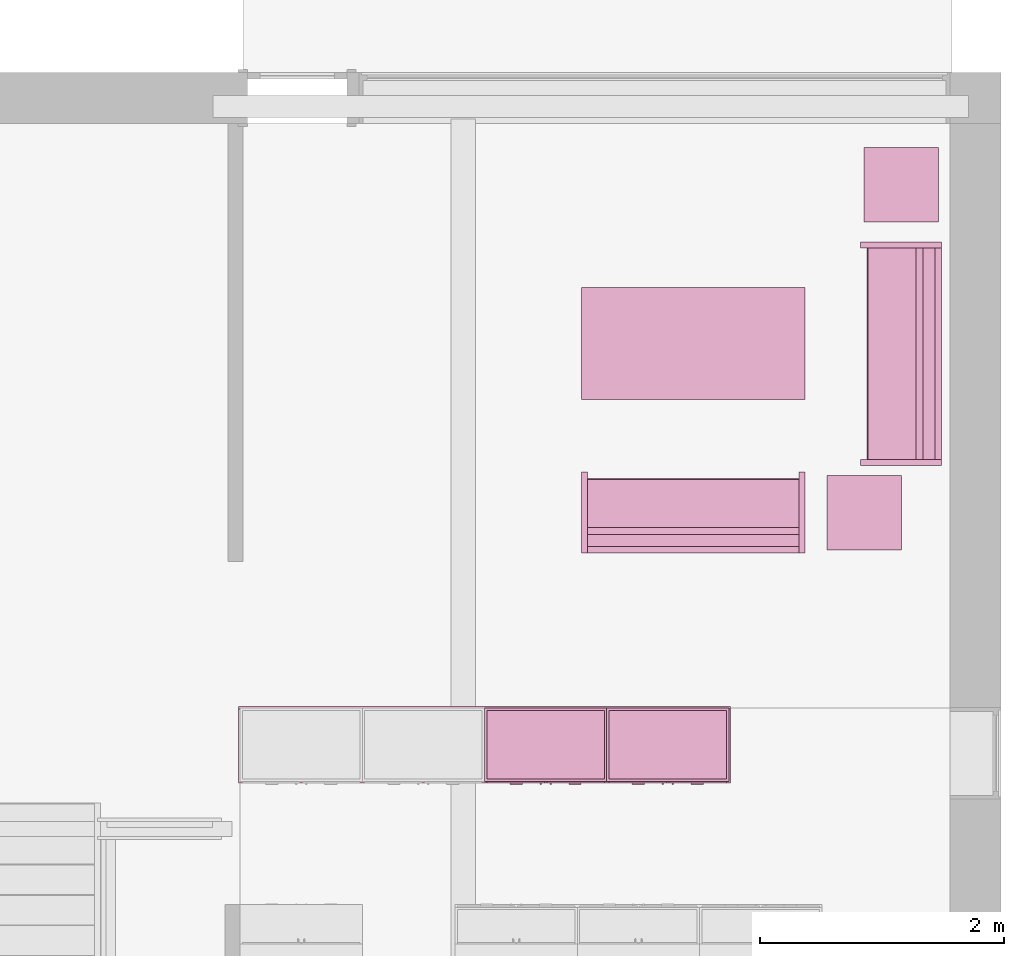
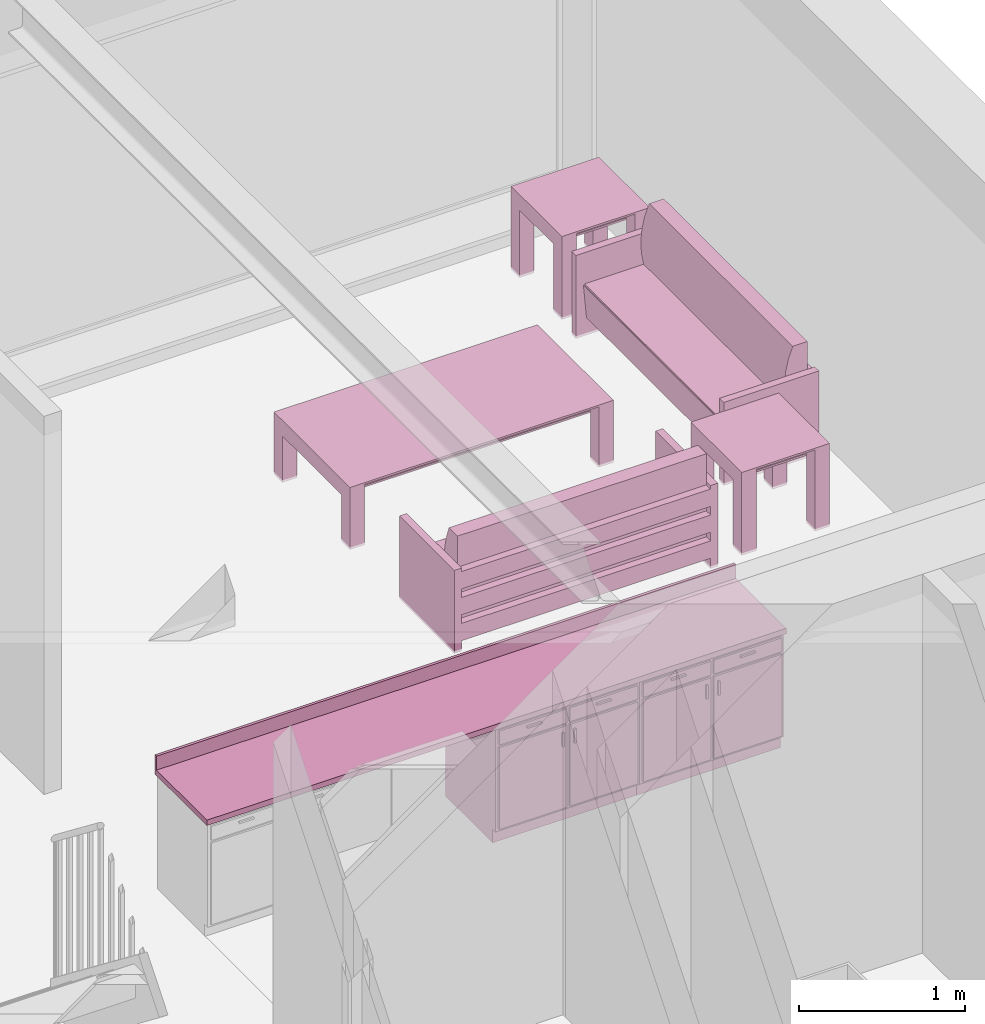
# One storey, part 13 of 14: 8 furnishings.
"""IFC4 building model written with IfcOpenShell, lengths in metres."""

from ifc_helpers import new_model, entity, si_unit, converted_unit, frame, origin, origin_2d_with_axis, place, context, project, spatial, polyline, rectangle, outline, extrude, face_set, surface_model, source, transform, mapped, element, save


model = new_model("IFC4")

# Units and contexts
model_context = context("Model", 3, precision=1e-09, world=origin())
plan_context = context("Plan", 3, precision=1e-09, world=origin())
ifc_project = project(units=[si_unit("LENGTHUNIT", "METRE"), si_unit("AREAUNIT", "SQUARE_METRE"), si_unit("VOLUMEUNIT", "CUBIC_METRE"), converted_unit("PLANEANGLEUNIT", "DEGREE", entity("IfcRatioMeasure", 0.01745329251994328), si_unit("PLANEANGLEUNIT", "RADIAN"), dimensions=[0, 0, 0, 0, 0, 0, 0]), si_unit("TIMEUNIT", "SECOND")], contexts=[model_context, plan_context])

# Site, building, storey, space
site_placement = place(None, origin())
site = spatial("IfcSite", under=ifc_project, at=site_placement, Name="Default", CompositionType="ELEMENT")
building_placement = place(site_placement, origin())
building = spatial("IfcBuilding", under=site, at=building_placement, CompositionType="ELEMENT")
storey_placement = place(building_placement, origin())
storey = spatial("IfcBuildingStorey", under=building, at=storey_placement, Name="Level 1", CompositionType="ELEMENT", Elevation=0.0)
space_1_placement = place(storey_placement, origin())
space_1 = spatial("IfcSpace", under=storey, at=space_1_placement, Name="B103", CompositionType="ELEMENT", PredefinedType="INTERNAL")

# Furnishings
shared_shape_1 = source(origin(), model_context, "Body", "SurfaceModel", [
    surface_model("IfcFaceBasedSurfaceModel", [(0.9809499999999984, 0.04445000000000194, 0.8600000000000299), (0.9809499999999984, 0.04445000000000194, 0.0999999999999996), (0.01905000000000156, 0.04445000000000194, 0.0999999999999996), (0.01905000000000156, 0.04445000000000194, 0.8600000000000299), (1.0, 0.02540000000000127, 0.8600000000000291), (0.0, 0.02540000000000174, 0.8600000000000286), (1.0, 0.02540000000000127, 0.0999999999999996), (0.0, 0.02540000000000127, 0.09999999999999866), (0.01905000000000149, 0.606349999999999, 0.8600000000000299), (0.01905000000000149, 0.606349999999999, 0.09999999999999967), (0.01905000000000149, 0.06040000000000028, 0.0999999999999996), (0.0, 0.6253999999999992, 0.8600000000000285), (0.0, 0.6254000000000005, 0.0), (0.0, 0.06040000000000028, 0.0), (0.0, 0.06040000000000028, 0.09999999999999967), (0.9809499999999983, 0.6063499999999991, 0.8600000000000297), (0.9809499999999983, 0.6063499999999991, 0.09999999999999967), (1.0, 0.6253999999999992, 0.8600000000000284), (1.0, 0.6253999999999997, 0.0), (0.9809499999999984, 0.06040000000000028, 0.09999999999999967), (1.0, 0.06040000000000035, 0.09999999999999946), (1.0, 0.06040000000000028, 0.0), (0.3103250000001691, 0.0, 0.815550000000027), (0.3103250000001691, 0.0, 0.8028500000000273), (0.2087250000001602, 0.0, 0.8028500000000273), (0.2087250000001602, 0.0, 0.815550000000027), (0.7912750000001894, 0.0, 0.815550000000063), (0.7912750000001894, 0.0, 0.8028500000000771), (0.6896750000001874, 0.0, 0.8028500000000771), (0.6896750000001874, 0.0, 0.815550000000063), (0.4650750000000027, 0.0, 0.6822000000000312), (0.4650750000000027, 0.0, 0.5806000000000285), (0.4523750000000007, 0.0, 0.5806000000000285), (0.4523750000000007, 0.0, 0.6822000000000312), (0.5476249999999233, 0.0, 0.6822000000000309), (0.5476249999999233, 0.0, 0.5806000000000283), (0.5349249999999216, 0.0, 0.5806000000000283), (0.5349249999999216, 0.0, 0.6822000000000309), (0.3103250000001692, 0.01270000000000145, 0.815550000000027), (0.3103250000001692, 0.01270000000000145, 0.8028500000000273), (0.2087250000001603, 0.01270000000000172, 0.8028500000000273), (0.2087250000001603, 0.01270000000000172, 0.815550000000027), (0.7912750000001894, 0.01269999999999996, 0.815550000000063), (0.7912750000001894, 0.01269999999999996, 0.8028500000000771), (0.6896750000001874, 0.01270000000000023, 0.8028500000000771), (0.6896750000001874, 0.01270000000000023, 0.815550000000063), (0.4650750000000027, 0.0127000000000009, 0.6822000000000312), (0.4650750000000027, 0.0127000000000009, 0.5806000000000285), (0.4523750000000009, 0.0127000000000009, 0.5806000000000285), (0.4523750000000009, 0.0127000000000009, 0.6822000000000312), (0.5476249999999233, 0.01270000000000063, 0.6822000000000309), (0.5476249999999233, 0.01270000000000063, 0.5806000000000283), (0.5349249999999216, 0.01270000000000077, 0.5806000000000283), (0.5349249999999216, 0.01270000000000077, 0.6822000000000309), (0.4904749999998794, 0.0127000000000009, 0.840950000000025), (0.4904749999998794, 0.0127000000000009, 0.7393500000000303), (0.01905000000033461, 0.01270000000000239, 0.7393500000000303), (0.01905000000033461, 0.01270000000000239, 0.840950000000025), (0.9809500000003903, 0.01269999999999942, 0.8409500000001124), (0.9809500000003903, 0.01269999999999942, 0.7393500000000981), (0.509524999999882, 0.0127000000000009, 0.7393500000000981), (0.509524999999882, 0.0127000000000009, 0.8409500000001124), (0.4904749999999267, 0.0127000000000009, 0.7203000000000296), (0.4904749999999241, 0.0127000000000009, 0.119049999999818), (0.01905000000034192, 0.01270000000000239, 0.119049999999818), (0.01905000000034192, 0.01270000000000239, 0.7203000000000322), (0.9809500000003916, 0.01269999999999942, 0.7203000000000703), (0.9809500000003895, 0.01269999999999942, 0.1190499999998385), (0.5095249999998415, 0.0127000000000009, 0.1190499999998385), (0.5095249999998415, 0.0127000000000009, 0.7203000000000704), (0.4904749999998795, 0.02540000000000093, 0.840950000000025), (0.4904749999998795, 0.02540000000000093, 0.7393500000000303), (0.01905000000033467, 0.02540000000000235, 0.7393500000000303), (0.01905000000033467, 0.02540000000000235, 0.840950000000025), (0.9809500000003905, 0.02539999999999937, 0.8409500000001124), (0.9809500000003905, 0.02539999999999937, 0.7393500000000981), (0.5095249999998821, 0.02540000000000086, 0.7393500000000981), (0.5095249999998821, 0.02540000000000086, 0.8409500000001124), (0.4904749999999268, 0.02540000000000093, 0.7203000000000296), (0.4904749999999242, 0.02540000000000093, 0.119049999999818), (0.01905000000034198, 0.02540000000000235, 0.119049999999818), (0.01905000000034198, 0.02540000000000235, 0.7203000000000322), (0.9809500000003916, 0.02539999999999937, 0.7203000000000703), (0.9809500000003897, 0.02539999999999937, 0.1190499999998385), (0.5095249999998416, 0.02540000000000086, 0.1190499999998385), (0.5095249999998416, 0.02540000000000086, 0.7203000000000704), (0.9809499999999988, 0.6063499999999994, 0.1190499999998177), (0.9809499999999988, 0.04445000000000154, 0.1190499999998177), (0.01905000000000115, 0.04445000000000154, 0.1190499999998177), (0.01905000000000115, 0.6063499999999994, 0.1190499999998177), (0.9809499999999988, 0.6063499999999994, 0.09999999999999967), (0.9809499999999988, 0.04445000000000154, 0.09999999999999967), (0.01905000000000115, 0.04445000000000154, 0.09999999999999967), (0.01905000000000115, 0.6063499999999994, 0.09999999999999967)], [face_set([[[0, 1, 2, 3]], [[0, 4, 5, 3]], [[4, 6, 7, 5]], [[2, 1, 6, 7]], [[3, 8, 9, 10, 2]], [[5, 11, 8, 3]], [[7, 5, 11, 12, 13, 14]], [[2, 7, 14, 10]], [[8, 15, 16, 9]], [[11, 17, 15, 8]], [[12, 11, 17, 18]], [[1, 19, 16, 15, 0]], [[0, 15, 17, 4]], [[4, 6, 20, 21, 18, 17]], [[6, 1, 19, 20]], [[10, 9, 16, 19]], [[18, 21, 13, 12]], [[13, 14, 10, 19, 20, 21]]]), face_set([[[22, 23, 24, 25]], [[26, 27, 28, 29]], [[30, 31, 32, 33]], [[34, 35, 36, 37]], [[38, 39, 40, 41]], [[42, 43, 44, 45]], [[46, 47, 48, 49]], [[50, 51, 52, 53]], [[25, 41, 38, 22]], [[24, 40, 41, 25]], [[23, 24, 40, 39]], [[22, 23, 39, 38]], [[29, 45, 42, 26]], [[28, 44, 45, 29]], [[27, 28, 44, 43]], [[26, 27, 43, 42]], [[33, 49, 46, 30]], [[32, 48, 49, 33]], [[31, 32, 48, 47]], [[30, 31, 47, 46]], [[37, 53, 50, 34]], [[36, 52, 53, 37]], [[35, 36, 52, 51]], [[34, 35, 51, 50]]]), face_set([[[54, 55, 56, 57]], [[58, 59, 60, 61]], [[62, 63, 64, 65]], [[66, 67, 68, 69]], [[70, 71, 72, 73]], [[74, 75, 76, 77]], [[78, 79, 80, 81]], [[82, 83, 84, 85]], [[57, 73, 70, 54]], [[56, 57, 73, 72]], [[55, 56, 72, 71]], [[54, 55, 71, 70]], [[61, 77, 74, 58]], [[60, 76, 77, 61]], [[59, 60, 76, 75]], [[58, 59, 75, 74]], [[65, 81, 78, 62]], [[64, 65, 81, 80]], [[63, 64, 80, 79]], [[62, 63, 79, 78]], [[69, 85, 82, 66]], [[68, 84, 85, 69]], [[67, 68, 84, 83]], [[66, 67, 83, 82]]]), face_set([[[86, 87, 88, 89]], [[90, 91, 92, 93]], [[89, 86, 90, 93]], [[88, 89, 93, 92]], [[87, 91, 92, 88]], [[86, 87, 91, 90]]])]),
])
for number, where in (
    (1, (4.574000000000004, -5.82540000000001, 0.0)),
    (2, (5.574000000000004, -5.825400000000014, 0.0)),
):
    element("IfcFurnishingElement", number, at=place(space_1_placement, frame(where)), inside=space_1, Name="M_Base Cabinet-Double Door & 2 Drawer:1000mm:1000mm", ObjectType="1000mm", context=model_context, shape_type="MappedRepresentation", body=[
        mapped(shared_shape_1, transform((0.0, 0.0, 0.0), scale=1.0)),
    ])
shared_shape_2 = source(origin(), model_context, "Body", "SweptSolid", [
    extrude(rectangle(XDim=0.01905000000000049, YDim=4.023999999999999, at=origin_2d_with_axis()), frame((0.8115377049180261, -0.009525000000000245, 0.8999999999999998), z_axis=(0.0, 0.0, 1.0), x_axis=(0.0, -1.0, 0.0)), (0.0, 0.0, 1.0), 0.1016000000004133),
    extrude(rectangle(XDim=4.023999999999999, YDim=0.6249999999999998, at=origin_2d_with_axis()), frame((0.8115377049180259, -0.3124999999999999, 0.8600000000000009), z_axis=(0.0, 0.0, 1.0), x_axis=(-1.0, 0.0, 0.0)), (0.0, 0.0, 1.0), 0.03999999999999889),
])
furnishing_1_placement = place(space_1_placement, frame((3.76246229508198, -5.188000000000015, 0.0)))
element("IfcFurnishingElement", 3, at=furnishing_1_placement, inside=space_1, Name="M_Counter Top:600mm Depth:600mm Depth", ObjectType="600mm Depth", context=model_context, shape_type="MappedRepresentation", body=[
    mapped(shared_shape_2, transform((0.0, 0.0, 0.0), scale=1.0)),
])

# Space
space_2_placement = place(storey_placement, origin())
space_2 = spatial("IfcSpace", under=storey, at=space_2_placement, Name="B102", CompositionType="ELEMENT", PredefinedType="INTERNAL")

# Furnishings
shared_shape_3 = source(origin(), model_context, "Body", "SurfaceModel", [
    surface_model("IfcFaceBasedSurfaceModel", [(0.0507999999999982, 0.6095999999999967, 0.5842), (0.05079999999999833, 0.6603999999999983, 0.5842), (0.05079999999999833, 0.6603999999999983, 0.4572000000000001), (0.0507999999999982, 0.6095999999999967, 0.4572000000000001), (0.0507999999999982, 0.6095999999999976, 0.3937000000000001), (0.05079999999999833, 0.6603999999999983, 0.3937000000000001), (0.05079999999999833, 0.6603999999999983, 0.2667), (0.0507999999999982, 0.6095999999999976, 0.2667), (0.0507999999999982, 0.6096000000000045, 0.2032), (0.05079999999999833, 0.6603999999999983, 0.2032), (0.05079999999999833, 0.6603999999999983, 0.0762), (0.0507999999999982, 0.6096000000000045, 0.0762), (1.779199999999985, 0.6095999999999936, 0.5842), (1.779199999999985, 0.6095999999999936, 0.4572000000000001), (1.779199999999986, 0.6603999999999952, 0.4572000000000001), (1.779199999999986, 0.6603999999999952, 0.5842), (1.779199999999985, 0.6095999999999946, 0.3937000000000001), (1.779199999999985, 0.6095999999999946, 0.2667), (1.779199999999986, 0.6603999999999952, 0.2667), (1.779199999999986, 0.6603999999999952, 0.3937000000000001), (1.779199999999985, 0.6096000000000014, 0.2032), (1.779199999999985, 0.6096000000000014, 0.0762), (1.779199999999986, 0.6603999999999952, 0.0762), (1.779199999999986, 0.6603999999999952, 0.2032), (0.05079999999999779, 0.4702223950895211, 0.3809999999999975), (0.05079999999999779, 0.4544013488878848, 0.4678311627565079), (0.05079999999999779, 0.4503004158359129, 0.5559965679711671), (0.05079999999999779, 0.4579928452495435, 0.6439214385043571), (0.05079999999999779, 0.4773412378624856, 0.7300352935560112), (0.05079999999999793, 0.5079999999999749, 0.8127999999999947), (0.05079999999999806, 0.6095999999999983, 0.8127999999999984), (0.05079999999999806, 0.6095999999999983, 0.1279665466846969), (0.05079999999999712, 0.07293755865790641, 0.1279665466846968), (0.05079999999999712, 0.05200794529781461, 0.367193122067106), (0.05079999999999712, 0.0526336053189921, 0.3723822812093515), (0.05079999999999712, 0.05529619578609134, 0.3768799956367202), (0.05079999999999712, 0.05954473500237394, 0.3799244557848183), (0.05079999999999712, 0.06465961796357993, 0.3810000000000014), (1.779199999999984, 0.4702223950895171, 0.3810000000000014), (1.779199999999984, 0.06465961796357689, 0.3810000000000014), (1.779199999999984, 0.05954473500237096, 0.3799244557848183), (1.779199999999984, 0.05529619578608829, 0.3768799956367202), (1.779199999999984, 0.05263360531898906, 0.3723822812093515), (1.779199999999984, 0.05200794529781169, 0.3671931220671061), (1.779199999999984, 0.07293755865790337, 0.1279665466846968), (1.779199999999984, 0.6095999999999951, 0.1279665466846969), (1.779199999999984, 0.6095999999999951, 0.8127999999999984), (1.779199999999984, 0.5079999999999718, 0.8127999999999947), (1.779199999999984, 0.4773412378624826, 0.7300352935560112), (1.779199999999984, 0.4579928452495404, 0.6439214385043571), (1.779199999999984, 0.4503004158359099, 0.5559965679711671), (1.779199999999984, 0.4544013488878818, 0.4678311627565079), (0.05079998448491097, 0.05396489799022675, 0.3746311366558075), (1.779199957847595, 0.05396489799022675, 0.3746311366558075), (0.05079998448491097, 0.05232077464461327, 0.369787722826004), (1.779199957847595, 0.05232077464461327, 0.369787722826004), (1.779199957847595, 0.06210217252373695, 0.3804622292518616), (0.05079998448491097, 0.0621788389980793, 0.3804783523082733), (1.779199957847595, 0.05742046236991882, 0.3784022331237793), (0.05079998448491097, 0.05742046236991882, 0.3784022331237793), (0.05079999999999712, 0.6603999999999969, 0.6096), (0.05079999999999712, 0.0, 0.6096), (0.0, 0.0, 0.6096), (0.0, 0.6603999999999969, 0.6096), (1.829999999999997, 0.6604000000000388, 0.6096), (1.829999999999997, 0.0, 0.6096), (1.779199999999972, 0.0, 0.6096), (1.779199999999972, 0.6604000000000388, 0.6096), (0.05079999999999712, 0.6603999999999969, 0.0), (0.05079999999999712, 0.0, 0.0), (0.0, 0.0, 0.0), (0.0, 0.6603999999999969, 0.0), (1.829999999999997, 0.6604000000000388, 0.0), (1.829999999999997, 0.0, 0.0), (1.779199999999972, 0.0, 0.0), (1.779199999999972, 0.6604000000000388, 0.0)], [face_set([[[0, 1, 2, 3]], [[4, 5, 6, 7]], [[8, 9, 10, 11]], [[12, 13, 14, 15]], [[16, 17, 18, 19]], [[20, 21, 22, 23]], [[1, 15, 12, 0]], [[2, 14, 15, 1]], [[3, 2, 14, 13]], [[0, 3, 13, 12]], [[5, 19, 16, 4]], [[6, 18, 19, 5]], [[7, 6, 18, 17]], [[4, 7, 17, 16]], [[9, 23, 20, 8]], [[10, 22, 23, 9]], [[11, 10, 22, 21]], [[8, 11, 21, 20]]]), face_set([[[24, 25, 26, 27, 28, 29, 30, 31, 32, 33, 34, 35, 36, 37]], [[38, 39, 40, 41, 42, 43, 44, 45, 46, 47, 48, 49, 50, 51]], [[24, 25, 51, 38]], [[25, 26, 50, 51]], [[49, 50, 26, 27]], [[27, 28, 48, 49]], [[28, 29, 47, 48]], [[30, 46, 47, 29]], [[31, 30, 46, 45]], [[32, 31, 45, 44]], [[33, 32, 44, 43]], [[41, 35, 52, 53]], [[54, 55, 42, 34]], [[33, 43, 55, 54]], [[34, 42, 53, 52]], [[39, 56, 57]], [[35, 41, 58, 59]], [[56, 40, 36]], [[57, 37, 39]], [[57, 56, 36]], [[40, 36, 59, 58]], [[24, 38, 39, 37]]]), face_set([[[60, 61, 62, 63]], [[64, 65, 66, 67]], [[68, 69, 70, 71]], [[72, 73, 74, 75]], [[63, 60, 68, 71]], [[62, 63, 71, 70]], [[61, 62, 70, 69]], [[60, 68, 69, 61]], [[67, 64, 72, 75]], [[66, 74, 75, 67]], [[65, 66, 74, 73]], [[64, 65, 73, 72]]])]),
])
for number, where, z_axis, x_axis, name in (
    (4, (7.652800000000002, -1.385000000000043, 0.0), (0.0, 0.0, 1.0), (0.0, -1.0, 0.0), "M_Sofa:1830mm:1830mm"),
    (5, (7.197999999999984, -3.269800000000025, 0.0), (0.0, 0.0, 1.0), (-1.0, 0.0, 0.0), "M_Sofa:1830mm:1830mm"),
):
    element("IfcFurnishingElement", number, at=place(space_2_placement, frame(where, z_axis=z_axis, x_axis=x_axis)), inside=space_2, Name=name, ObjectType="1830mm", context=model_context, shape_type="MappedRepresentation", body=[
        mapped(shared_shape_3, transform((0.0, 0.0, 0.0), scale=1.0)),
    ])
shared_shape_4 = source(origin(), model_context, "Body", "SweptSolid", [
    extrude(rectangle(XDim=0.4067999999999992, YDim=0.4067999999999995, at=origin_2d_with_axis()), frame((0.01826576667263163, 0.09521107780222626, 0.4957000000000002), z_axis=(0.0, 0.0, 1.0), x_axis=(-1.0, 0.0, 0.0)), (0.0, 0.0, 1.0), 0.01270000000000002),
    extrude(outline(polyline([(-0.2732499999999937, -0.3050000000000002), (0.3240499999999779, -0.3050000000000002), (0.3240499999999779, 0.3049999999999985), (-0.2732499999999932, 0.3049999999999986), (-0.2732499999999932, 0.2034000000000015), (0.2224500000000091, 0.2034000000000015), (0.2224500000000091, -0.2033999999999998), (-0.2732499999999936, -0.2033999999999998), (-0.2732499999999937, -0.3050000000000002)])), frame((0.2216657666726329, 0.09521107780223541, 0.2732499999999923), z_axis=(1.0, 0.0, 0.0), x_axis=(0.0, 0.0, 1.0)), (0.0, 0.0, 1.0), 0.1016),
    extrude(outline(polyline([(-0.3050000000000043, -0.3240500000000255), (0.3049999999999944, -0.3240500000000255), (0.3049999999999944, 0.2732500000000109), (0.2034000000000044, 0.2732500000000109), (0.2034000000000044, -0.2224499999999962), (-0.2033999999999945, -0.2224499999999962), (-0.2033999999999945, 0.2732500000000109), (-0.3050000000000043, 0.2732500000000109), (-0.3050000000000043, -0.3240500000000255)])), frame((-0.2867342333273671, 0.09521107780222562, 0.2732500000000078), z_axis=(1.0, 0.0, 0.0), x_axis=(0.0, -1.0, 0.0)), (0.0, 0.0, 1.0), 0.1016),
    extrude(rectangle(XDim=0.4067999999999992, YDim=0.4067999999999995, at=origin_2d_with_axis()), frame((0.01826576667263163, 0.09521107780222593, 0.5973000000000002), z_axis=(0.0, 0.0, 1.0), x_axis=(-1.0, 0.0, 0.0)), (0.0, 0.0, 1.0), 0.01270000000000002),
    extrude(outline(polyline([(-0.3050000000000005, -0.3050000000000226), (0.3050000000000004, -0.3050000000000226), (0.3050000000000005, 0.3050000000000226), (-0.3050000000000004, 0.3050000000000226), (-0.3050000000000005, -0.3050000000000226)]), holes=[polyline([(-0.203399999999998, -0.2033999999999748), (-0.2033999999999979, 0.2034000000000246), (0.2034000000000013, 0.2034000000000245), (0.2034000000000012, -0.2033999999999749), (-0.203399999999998, -0.2033999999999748)])]), frame((0.01826576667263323, 0.09521107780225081, 0.5973000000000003), z_axis=(0.0, 0.0, 1.0), x_axis=(-1.0, 0.0, 0.0)), (0.0, 0.0, 1.0), 0.01269999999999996),
])
for number, where, name in (
    (6, (7.664734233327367, -3.695211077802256, 0.0), "M_Table-Coffee:0610 x 0610 x 0610mm:0610 x 0610 x 0610mm"),
    (7, (7.964734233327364, -1.012211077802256, 0.0), "M_Table-Coffee:0610 x 0610 x 0610mm:0610 x 0610 x 0610mm"),
):
    element("IfcFurnishingElement", number, at=place(space_2_placement, frame(where)), inside=space_2, Name=name, ObjectType="0610 x 0610 x 0610mm", context=model_context, shape_type="MappedRepresentation", body=[
        mapped(shared_shape_4, transform((0.0, 0.0, 0.0), scale=1.0)),
    ])
shared_shape_5 = source(origin(), model_context, "Body", "SweptSolid", [
    extrude(rectangle(XDim=1.626799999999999, YDim=0.7117999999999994, at=origin_2d_with_axis()), frame((0.01826576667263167, 0.0952110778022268, 0.3427000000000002), z_axis=(0.0, 0.0, 1.0), x_axis=(-1.0, 0.0, 0.0)), (0.0, 0.0, 1.0), 0.01270000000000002),
    extrude(outline(polyline([(-0.1967499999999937, -0.4575000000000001), (0.2475499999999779, -0.4575000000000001), (0.2475499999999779, 0.4574999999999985), (-0.1967499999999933, 0.4574999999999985), (-0.1967499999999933, 0.3559000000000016), (0.145950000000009, 0.3559000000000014), (0.145950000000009, -0.3558999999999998), (-0.1967499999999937, -0.3558999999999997), (-0.1967499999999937, -0.4575000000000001)])), frame((0.8316657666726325, 0.09521107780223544, 0.1967499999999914), z_axis=(1.0, 0.0, 0.0), x_axis=(0.0, 0.0, 1.0)), (0.0, 0.0, 1.0), 0.1016000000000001),
    extrude(outline(polyline([(-0.4575000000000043, -0.2475500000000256), (0.4574999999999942, -0.2475500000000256), (0.4574999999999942, 0.1967500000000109), (0.3559000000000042, 0.1967500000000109), (0.3559000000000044, -0.1459499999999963), (-0.3558999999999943, -0.1459499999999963), (-0.3558999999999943, 0.1967500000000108), (-0.4575000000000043, 0.1967500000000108), (-0.4575000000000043, -0.2475500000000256)])), frame((-0.8967342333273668, 0.09521107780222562, 0.1967500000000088), z_axis=(1.0, 0.0, 0.0), x_axis=(0.0, -1.0, 0.0)), (0.0, 0.0, 1.0), 0.1016000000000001),
    extrude(rectangle(XDim=1.626799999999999, YDim=0.7117999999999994, at=origin_2d_with_axis()), frame((0.01826576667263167, 0.09521107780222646, 0.4443000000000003), z_axis=(0.0, 0.0, 1.0), x_axis=(-1.0, 0.0, 0.0)), (0.0, 0.0, 1.0), 0.01270000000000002),
    extrude(outline(polyline([(-0.9150000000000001, -0.4575000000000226), (0.9150000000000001, -0.4575000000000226), (0.9150000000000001, 0.4575000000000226), (-0.9150000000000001, 0.4575000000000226), (-0.9150000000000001, -0.4575000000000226)]), holes=[polyline([(-0.8133999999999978, -0.3558999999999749), (-0.8133999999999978, 0.3559000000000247), (0.8134000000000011, 0.3559000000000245), (0.8134000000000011, -0.3558999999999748), (-0.8133999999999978, -0.3558999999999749)])]), frame((0.01826576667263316, 0.09521107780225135, 0.4443000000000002), z_axis=(0.0, 0.0, 1.0), x_axis=(-1.0, 0.0, 0.0)), (0.0, 0.0, 1.0), 0.01270000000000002),
])
furnishing_2_placement = place(space_2_placement, frame((6.264734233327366, -2.312211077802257, 0.0)))
element("IfcFurnishingElement", 8, at=furnishing_2_placement, inside=space_2, Name="M_Table-Coffee:0915 x 1830 x 0457mm:0915 x 1830 x 0457mm", ObjectType="0915 x 1830 x 0457mm", context=model_context, shape_type="MappedRepresentation", body=[
    mapped(shared_shape_5, transform((0.0, 0.0, 0.0), scale=1.0)),
])

save(model, "model.ifc")
